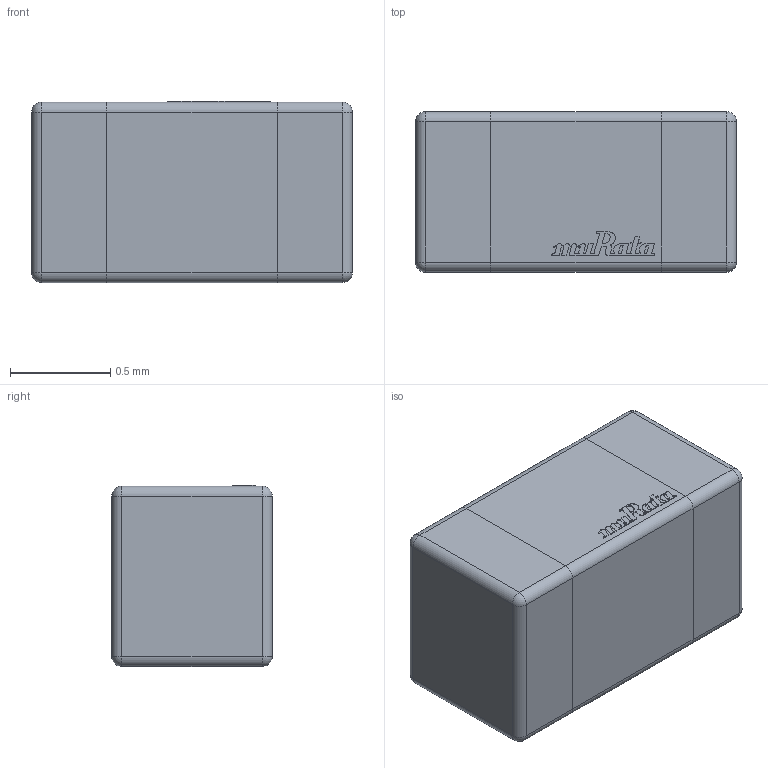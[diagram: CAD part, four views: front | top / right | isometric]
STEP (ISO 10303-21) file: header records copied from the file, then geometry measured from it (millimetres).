
FILE_DESCRIPTION(/* description */ (''),/* implementation_level */ '2;1');
FILE_NAME(/* name */ 'C:\Users\Ricardo\Documents\Upverter 3D models\Murata\GRM188B30G106ME46D\Murata GRM188B30G106ME46D - Chip Multilayer Ceramic Capacitors for General Purpose 10%, B(JIS), 4V as Voltage Rating and 10uF with 20% Tolerance 0603 .stp',/* time_stamp */ '2020-08-04T19:00:42-04:00',/* author */ ('Ricardo'),/* organization */ (''),/* preprocessor_version */ 'ST-DEVELOPER v18',/* originating_system */ 'Autodesk Inventor 2020',/* authorisation */ '');
FILE_SCHEMA (('AUTOMOTIVE_DESIGN { 1 0 10303 214 3 1 1 }'));
Length unit declared in the file: millimetre
Products named in the file (4): Murata GRM188C71A475KE11D - Ceramic Capacitor X7S 0603; terminals; body; logo
Assembly tree (3 placements, depth 2):
  Murata GRM188C71A475KE11D - Ceramic Capacitor X7S 0603
    terminals
    body
    logo
Bounding box: 1.6 x 0.8 x 0.9 mm (x, y, z)
Volume: 1.1 mm3; surface area: 9.5 mm2
Topology: 4 solids, 4 shells, 246 faces, 690 edges, 452 vertices
Faces by surface type: bspline 115, plane 91, cylinder 32, sphere 8
Entity records: 8662 total; most frequent: CARTESIAN_POINT 2570, ORIENTED_EDGE 1380, DIRECTION 1060, EDGE_CURVE 690, VERTEX_POINT 452, LINE 396, VECTOR 396, AXIS2_PLACEMENT_3D 332
